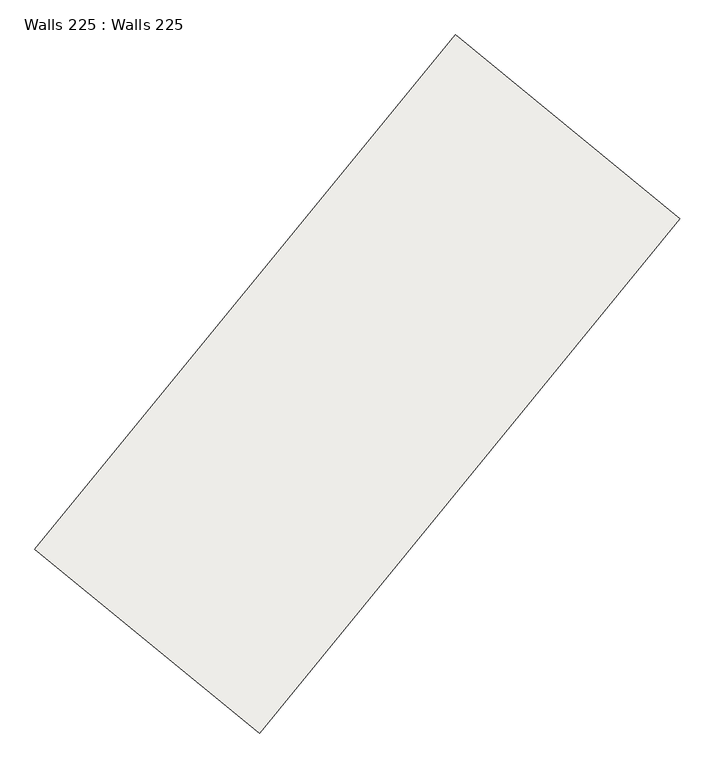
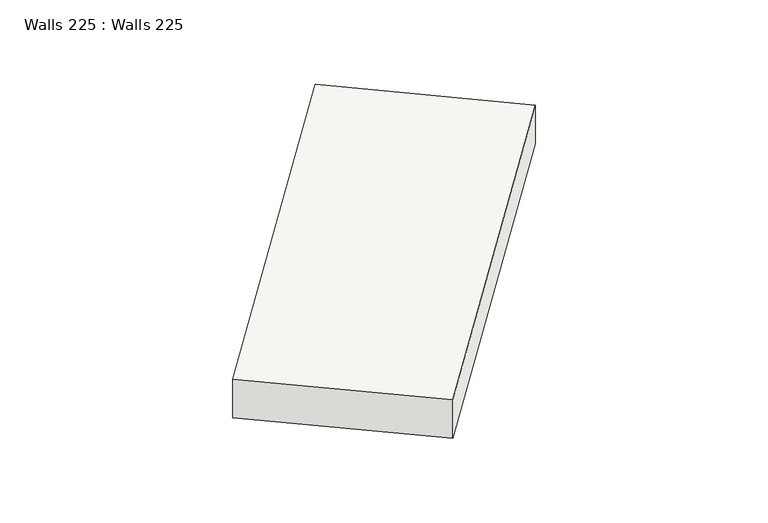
"""IFC4 building model written with IfcOpenShell, lengths in millimetres: slab geometry, Walls 225 : Walls 225."""

import ifcopenshell
import ifcopenshell.guid

model = None  # the IFC model being written
_history = None  # IfcOwnerHistory: only IFC2X3 demands one
_inside = {}  # id of a spatial element -> (the spatial element, [elements in it])
_under = {}  # id of a project, library or spatial element -> (it, [spatial elements below it])
_declared = {}  # id of a project -> (the project, [libraries it declares])
_typed = {}  # id of a type object -> (the type object, [elements of that type])
_made_of = {}  # id of a material, layer set ... -> (it, [elements and type objects made of it])


def new_model(schema):
    """Start an empty IFC model of exactly this schema.

    Asked for "IFC4X3", IfcOpenShell would pick the latest addendum, in which some entities
    have other attributes; the version numbers below select the first issue.
    IFC2X3 requires an IfcOwnerHistory on every rooted entity: one is made here for all.
    """
    global model, _history
    if schema == "IFC4X3":
        model = ifcopenshell.file(schema_version=(4, 3, 0, 0))
    else:
        model = ifcopenshell.file(schema=schema)
    _inside.clear()
    _under.clear()
    _declared.clear()
    _typed.clear()
    _made_of.clear()
    _history = None
    if model.schema == "IFC2X3":
        org = make("IfcOrganization", Name="unknown")
        user = make(
            "IfcPersonAndOrganization",
            ThePerson=make("IfcPerson", FamilyName="unknown"),
            TheOrganization=org,
        )
        app = make(
            "IfcApplication",
            ApplicationDeveloper=org,
            Version="unknown",
            ApplicationFullName="unknown",
            ApplicationIdentifier="unknown",
        )
        _history = make(
            "IfcOwnerHistory",
            OwningUser=user,
            OwningApplication=app,
            ChangeAction="ADDED",
            CreationDate=0,
        )
    return model


def make(cls, **values):
    """One entity of the class cls with the attributes given. An attribute that is None is left unset."""
    return model.create_entity(
        cls, **{name: value for name, value in values.items() if value is not None}
    )


def rooted(cls, **values):
    """An entity with a GlobalId (a new one), such as an element, a storey or a relation."""
    return make(cls, GlobalId=ifcopenshell.guid.new(), OwnerHistory=_history, **values)


def si_unit(unit_type, name, prefix=None):
    """IfcSIUnit, for example si_unit("LENGTHUNIT", "METRE", prefix="MILLI")."""
    return make("IfcSIUnit", UnitType=unit_type, Prefix=prefix, Name=name)


def assignment(units):
    """IfcUnitAssignment: the units of a project."""
    return None if units is None else make("IfcUnitAssignment", Units=units)


def point(xyz):
    """IfcCartesianPoint."""
    return None if xyz is None else make("IfcCartesianPoint", Coordinates=xyz)


def direction(xyz):
    """IfcDirection."""
    return None if xyz is None else make("IfcDirection", DirectionRatios=xyz)


def frame(location, z_axis=None, x_axis=None):
    """IfcAxis2Placement3D, a coordinate frame: its origin and axes. An axis left out is left unset."""
    return make(
        "IfcAxis2Placement3D",
        Location=point(location),
        Axis=direction(z_axis),
        RefDirection=direction(x_axis),
    )


def origin():
    """The frame at (0, 0, 0) with its axes left unset."""
    return frame((0.0, 0.0, 0.0))


def place(relative_to, where):
    """IfcLocalPlacement: puts the frame where relative to a parent placement (None: the world)."""
    return make(
        "IfcLocalPlacement", PlacementRelTo=relative_to, RelativePlacement=where
    )


def context(
    kind, dimensions, precision=None, world=None, true_north=None, identifier=None
):
    """IfcGeometricRepresentationContext, for example the 3D "Model" context."""
    return make(
        "IfcGeometricRepresentationContext",
        ContextIdentifier=identifier,
        ContextType=kind,
        CoordinateSpaceDimension=dimensions,
        Precision=precision,
        WorldCoordinateSystem=world,
        TrueNorth=true_north,
    )


def project(units=None, contexts=None):
    """IfcProject with its units and contexts."""
    return rooted(
        "IfcProject",
        Name="project",
        RepresentationContexts=contexts,
        UnitsInContext=assignment(units),
    )


def spatial(cls, under=None, at=None, **own):
    """A site, building, storey or space (cls), placed at a placement, below another one or the project."""
    s = rooted(cls, ObjectPlacement=at, **own)
    if under is not None:
        _under.setdefault(under.id(), (under, []))[1].append(s)
    return s


def polyline(points):
    """IfcPolyline through the points."""
    return make("IfcPolyline", Points=[point(p) for p in points])


def outline(outer, holes=None, kind="AREA"):
    """IfcArbitraryClosedProfileDef: a profile drawn as a closed curve; with holes, ...WithVoids."""
    if holes is None:
        return make("IfcArbitraryClosedProfileDef", ProfileType=kind, OuterCurve=outer)
    return make(
        "IfcArbitraryProfileDefWithVoids",
        ProfileType=kind,
        OuterCurve=outer,
        InnerCurves=holes,
    )


def extrude(swept, where, along, depth):
    """IfcExtrudedAreaSolid: the profile swept, set in the frame where, extruded along a direction by depth."""
    return make(
        "IfcExtrudedAreaSolid",
        SweptArea=swept,
        Position=where,
        ExtrudedDirection=direction(along),
        Depth=depth,
    )


def shape(context_of_items, identifier, shape_type, items):
    """IfcShapeRepresentation: the items that make up one representation, for example the "Body"."""
    return make(
        "IfcShapeRepresentation",
        ContextOfItems=context_of_items,
        RepresentationIdentifier=identifier,
        RepresentationType=shape_type,
        Items=items,
    )


def source(mapping_origin, context_of_items, identifier, shape_type, items):
    """IfcRepresentationMap: a shape defined once, which mapped items show again and again."""
    return make(
        "IfcRepresentationMap",
        MappingOrigin=mapping_origin,
        MappedRepresentation=shape(context_of_items, identifier, shape_type, items),
    )


def transform(
    local_origin,
    x_axis=None,
    y_axis=None,
    z_axis=None,
    scale=None,
    scale2=None,
    scale3=None,
    uniform=True,
):
    """IfcCartesianTransformationOperator3D, or its non-uniform kind. x_axis, y_axis, z_axis: its Axis1, 2, 3."""
    if uniform:
        return make(
            "IfcCartesianTransformationOperator3D",
            Axis1=direction(x_axis),
            Axis2=direction(y_axis),
            LocalOrigin=point(local_origin),
            Scale=scale,
            Axis3=direction(z_axis),
        )
    return make(
        "IfcCartesianTransformationOperator3DnonUniform",
        Axis1=direction(x_axis),
        Axis2=direction(y_axis),
        LocalOrigin=point(local_origin),
        Scale=scale,
        Axis3=direction(z_axis),
        Scale2=scale2,
        Scale3=scale3,
    )


def mapped(mapping_source, mapping_target):
    """IfcMappedItem: shows the shape of a source again, moved by a transform."""
    return make(
        "IfcMappedItem", MappingSource=mapping_source, MappingTarget=mapping_target
    )


def made_of(thing, what):
    """Note that an element or type object is made of a material, layer set ...; save() writes the relation."""
    if what is not None:
        _made_of.setdefault(what.id(), (what, []))[1].append(thing)
    return thing


def element(
    cls,
    number,
    at=None,
    inside=None,
    cuts=None,
    type_object=None,
    material=None,
    context=None,
    identifier="Body",
    shape_type=None,
    held_by="IfcProductDefinitionShape",
    body=None,
    shapes=None,
    **own,
):
    """One element of the class cls, such as IfcWall. Its Tag is "e" and its number.

    at: its placement. inside: the storey or other place that contains it. cuts: it is an
    opening in that element (IfcRelVoidsElement). A single representation is given by context,
    identifier, shape_type and body (its items); several are given by shapes. held_by: the class
    of the entity that holds the representations. save() writes the other relations.
    """
    e = rooted(cls, Tag="e%d" % number, ObjectPlacement=at, **own)
    if body is not None:
        shapes = [shape(context, identifier, shape_type, body)]
    if shapes is not None:
        e.Representation = make(held_by, Representations=shapes)
    if inside is not None:
        _inside.setdefault(inside.id(), (inside, []))[1].append(e)
    if cuts is not None:
        rooted(
            "IfcRelVoidsElement", RelatingBuildingElement=cuts, RelatedOpeningElement=e
        )
    if type_object is not None:
        _typed.setdefault(type_object.id(), (type_object, []))[1].append(e)
    return made_of(e, material)


def aggregate(whole, parts):
    """IfcRelAggregates: a whole, such as a stair, and the parts it consists of."""
    return rooted("IfcRelAggregates", RelatingObject=whole, RelatedObjects=parts)


def save(model, path):
    """Write the relations noted so far, then the file.

    IfcRelAggregates (storeys below a building ...), IfcRelContainedInSpatialStructure (elements
    in a storey), IfcRelDefinesByType, IfcRelAssociatesMaterial and IfcRelDeclares: one each for
    every whole, place, type object, material and project.
    """
    for whole, parts in _under.values():
        aggregate(whole, parts)
    for where, things in _inside.values():
        rooted(
            "IfcRelContainedInSpatialStructure",
            RelatedElements=things,
            RelatingStructure=where,
        )
    for kind, things in _typed.values():
        rooted("IfcRelDefinesByType", RelatedObjects=things, RelatingType=kind)
    for what, things in _made_of.values():
        rooted("IfcRelAssociatesMaterial", RelatedObjects=things, RelatingMaterial=what)
    for by, libraries in _declared.values():
        rooted("IfcRelDeclares", RelatingContext=by, RelatedDefinitions=libraries)
    model.write(path)


def walls_225_walls_225_6eefa94a(model_context):
    return source(origin(), model_context, "Body", "SweptSolid", [
        extrude(outline(polyline([(-400.0, 0.0), (400.0, 0.0), (288.0, -8699.9999994), (-512.0, -8699.9999994), (-400.0, 0.0)])), frame((407639.7922254, 277200.5119722, 645538.0), z_axis=(-0.7739621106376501, 0.6332319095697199, 0.0), x_axis=(0.0, 0.0, 1.0)), (0.0, 0.0, 1.0), 3800.0),
    ])


if __name__ == "__main__":
    model = new_model("IFC4")
    model_context = context("Model", 3, world=origin())
    ifc_project = project(units=[si_unit("LENGTHUNIT", "METRE", prefix="MILLI")], contexts=[model_context])
    site = spatial("IfcSite", under=ifc_project)
    building = spatial("IfcBuilding", under=site)
    placement = place(None, origin())
    walls_225_walls_225_shape = walls_225_walls_225_6eefa94a(model_context)
    element("IfcSlab", 1, ObjectType="Walls 225 : Walls 225", at=placement, inside=building, context=model_context, shape_type="MappedRepresentation", body=[
        mapped(walls_225_walls_225_shape, transform((0.0, 0.0, 0.0), x_axis=(1.0, 0.0, 0.0), y_axis=(0.0, 1.0, 0.0), z_axis=(0.0, 0.0, 1.0))),
    ])
    save(model, "model.ifc")
